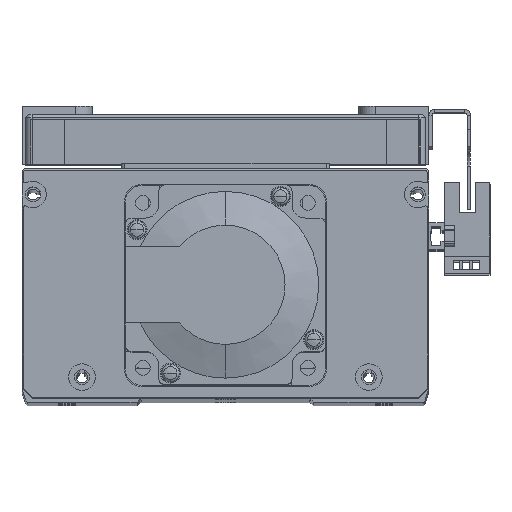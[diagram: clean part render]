
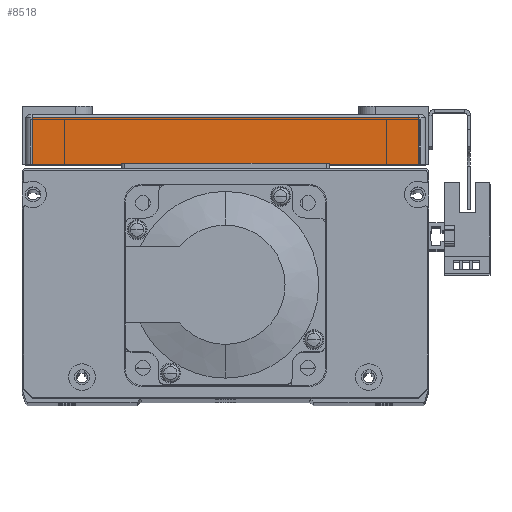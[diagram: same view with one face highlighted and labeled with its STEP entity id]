
A CAD part, top view. The second image highlights one B-rep face of the part: STEP entity #8518.
In plain terms, the highlighted planar face has unit normal (0, 0, 1) as drawn and (1, 0, 0) by its records, which use the part's own axes.
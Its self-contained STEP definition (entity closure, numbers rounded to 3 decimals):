
#8518 = ADVANCED_FACE ( 'NONE', ( #50559 ), #28922, .F. ) ;
#11404 = EDGE_LOOP ( 'NONE', ( #52910, #52866, #52963, #52881 ) ) ;
#12468 = AXIS2_PLACEMENT_3D ( 'NONE', #28935, #28923, #28982 ) ;
#14569 = CARTESIAN_POINT ( 'NONE',  ( 82.5, 15., -58. ) ) ;
#14655 = DIRECTION ( 'NONE',  ( 0., 1., 0. ) ) ;
#14657 = CARTESIAN_POINT ( 'NONE',  ( 82.5, 0., -60. ) ) ;
#14661 = CARTESIAN_POINT ( 'NONE',  ( 82.5, 14., 58. ) ) ;
#14666 = DIRECTION ( 'NONE',  ( 0., 0., -1. ) ) ;
#14695 = DIRECTION ( 'NONE',  ( 0., 0., 1. ) ) ;
#14698 = CARTESIAN_POINT ( 'NONE',  ( 82.5, 15., 58. ) ) ;
#14702 = DIRECTION ( 'NONE',  ( 0., -1., 0. ) ) ;
#20261 = CARTESIAN_POINT ( 'NONE',  ( 82.5, 14., -58. ) ) ;
#20292 = CARTESIAN_POINT ( 'NONE',  ( 82.5, 14., 58. ) ) ;
#20342 = CARTESIAN_POINT ( 'NONE',  ( 82.5, 0., 58. ) ) ;
#20367 = CARTESIAN_POINT ( 'NONE',  ( 82.5, 0., -58. ) ) ;
#23782 = VECTOR ( 'NONE', #14655, 1000. ) ;
#23783 = LINE ( 'NONE', #14657, #23802 ) ;
#23801 = LINE ( 'NONE', #14698, #23833 ) ;
#23802 = VECTOR ( 'NONE', #14666, 1000. ) ;
#23814 = LINE ( 'NONE', #14661, #23828 ) ;
#23819 = LINE ( 'NONE', #14569, #23782 ) ;
#23828 = VECTOR ( 'NONE', #14695, 1000. ) ;
#23833 = VECTOR ( 'NONE', #14702, 1000. ) ;
#28922 = PLANE ( 'NONE',  #12468 ) ;
#28923 = DIRECTION ( 'NONE',  ( -1., 0., 0. ) ) ;
#28935 = CARTESIAN_POINT ( 'NONE',  ( 82.5, 15., -60. ) ) ;
#28982 = DIRECTION ( 'NONE',  ( 0., 0., 1. ) ) ;
#40616 = VERTEX_POINT ( 'NONE', #20292 ) ;
#40645 = VERTEX_POINT ( 'NONE', #20261 ) ;
#40668 = VERTEX_POINT ( 'NONE', #20367 ) ;
#40693 = VERTEX_POINT ( 'NONE', #20342 ) ;
#50559 = FACE_OUTER_BOUND ( 'NONE', #11404, .T. ) ;
#52866 = ORIENTED_EDGE ( 'NONE', *, *, #55049, .T. ) ;
#52881 = ORIENTED_EDGE ( 'NONE', *, *, #55042, .T. ) ;
#52910 = ORIENTED_EDGE ( 'NONE', *, *, #55037, .T. ) ;
#52963 = ORIENTED_EDGE ( 'NONE', *, *, #55054, .T. ) ;
#55037 = EDGE_CURVE ( 'NONE', #40668, #40645, #23819, .T. ) ;
#55042 = EDGE_CURVE ( 'NONE', #40693, #40668, #23783, .T. ) ;
#55049 = EDGE_CURVE ( 'NONE', #40645, #40616, #23814, .T. ) ;
#55054 = EDGE_CURVE ( 'NONE', #40616, #40693, #23801, .T. ) ;
